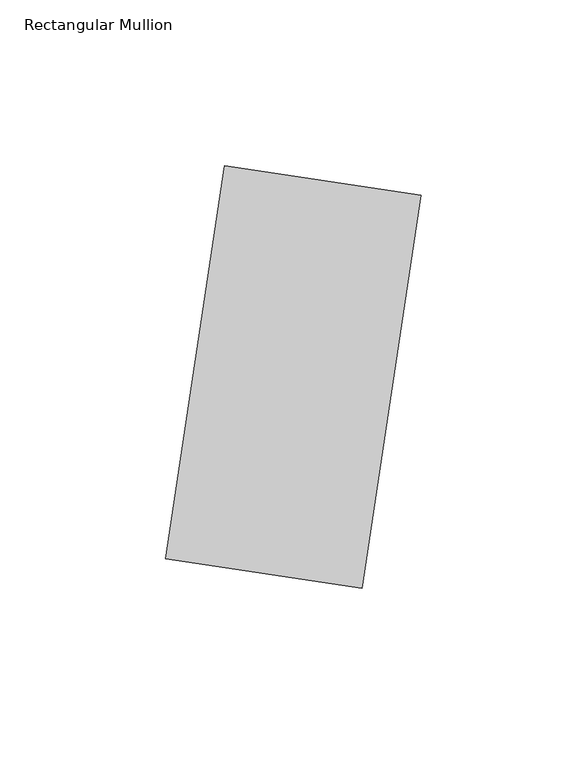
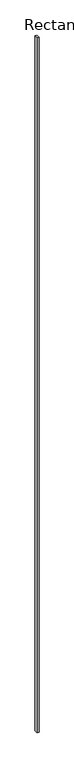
"""IFC4 building model written with IfcOpenShell, lengths in millimetres: member geometry, Rectangular Mullion : TERÇA 6x12 cm."""

from ifc_helpers import new_model, si_unit, frame, origin, place, context, project, spatial, polyline, outline, extrude, source, transform, mapped, element, save


def rectangular_mullion_9c9e6337(model_context):
    return source(origin(), model_context, "Body", "SweptSolid", [
        extrude(outline(polyline([(-29.6680906, 4.4502136), (-11.8672362, 123.1225759), (47.4689449, 114.2221488), (29.6680906, -4.4502136), (-29.6680906, 4.4502136)])), frame((0.0, 0.0, -23890.1659547), z_axis=(0.0, 0.0, 1.0), x_axis=(1.0, 0.0, 0.0)), (0.0, 0.0, 1.0), 23890.1659547),
    ])


if __name__ == "__main__":
    model = new_model("IFC4")
    model_context = context("Model", 3, world=origin())
    ifc_project = project(units=[si_unit("LENGTHUNIT", "METRE", prefix="MILLI")], contexts=[model_context])
    site = spatial("IfcSite", under=ifc_project)
    building = spatial("IfcBuilding", under=site)
    placement = place(None, origin())
    rectangular_mullion_shape = rectangular_mullion_9c9e6337(model_context)
    element("IfcMember", 1, ObjectType="Rectangular Mullion : TERÇA 6x12 cm", at=placement, inside=building, context=model_context, shape_type="MappedRepresentation", body=[
        mapped(rectangular_mullion_shape, transform((0.0, 0.0, 0.0), x_axis=(1.0, 0.0, 0.0), y_axis=(0.0, 1.0, 0.0), z_axis=(0.0, 0.0, 1.0))),
    ])
    save(model, "model.ifc")
